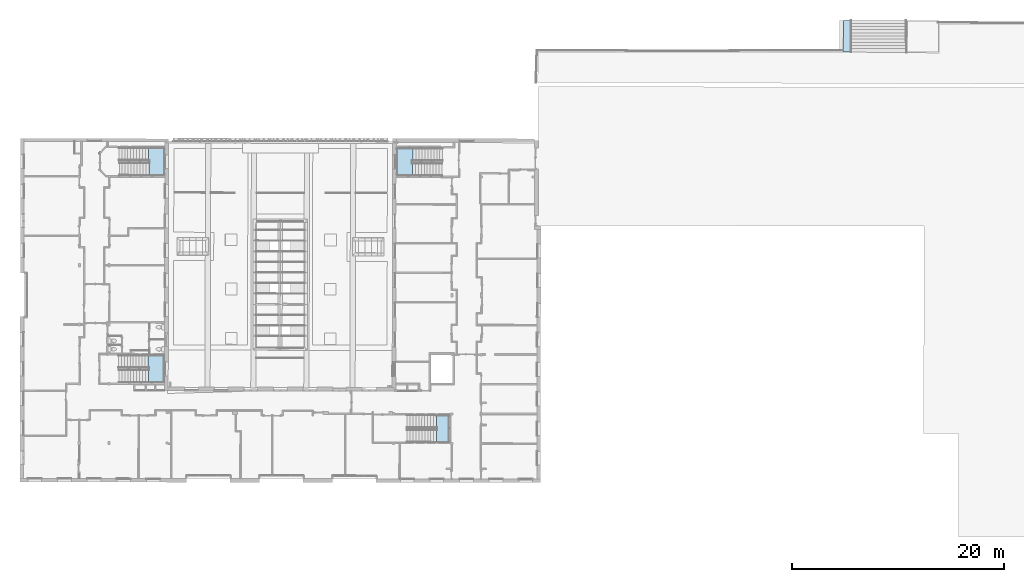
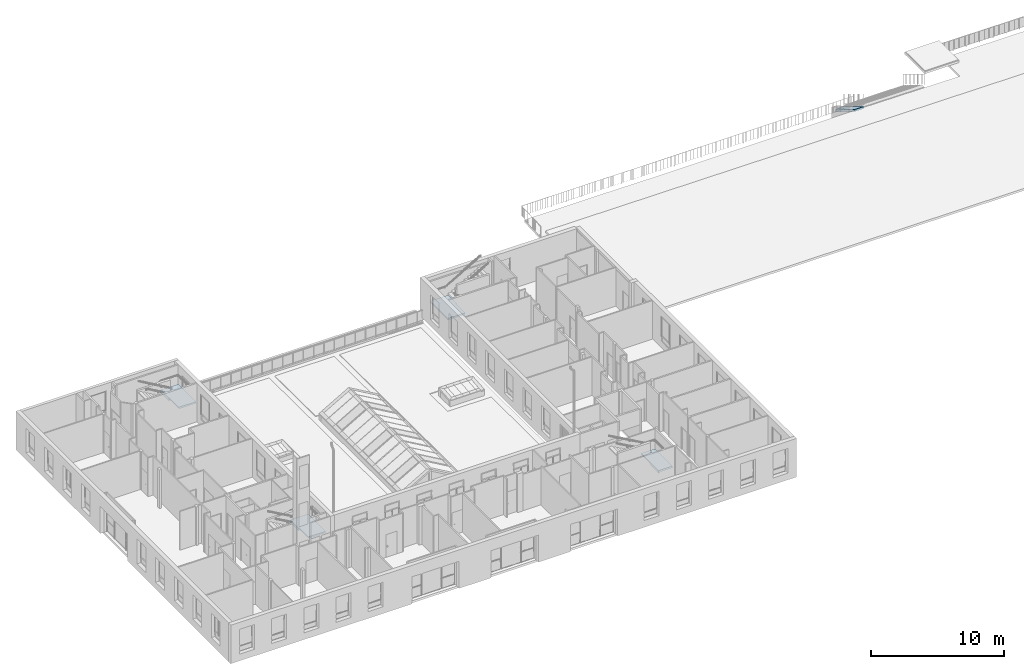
# One storey, part 90 of 101: 5 slabs, 4 elements without a shape of their own.
"""IFC2X3 building model written with IfcOpenShell, lengths in metres."""

from ifc_helpers import new_model, entity, si_unit, converted_unit, derived_unit, direction, frame, origin, place, context, subcontext, project, spatial, faceted_brep, material, layer, layer_set, type_object, element, aggregate, save


model = new_model("IFC2X3")

# Units and contexts
model_context = context("Model", 3, precision=1e-05, world=origin(), true_north=direction((6.123233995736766e-17, 1.0)))
body_context = subcontext(model_context, "Body", "Model", "MODEL_VIEW")
ifc_project = project(units=[si_unit("LENGTHUNIT", "METRE"), si_unit("AREAUNIT", "SQUARE_METRE"), converted_unit("PLANEANGLEUNIT", "DEGREE", entity("IfcPlaneAngleMeasure", 0.017453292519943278), si_unit("PLANEANGLEUNIT", "RADIAN"), dimensions=[0, 0, 0, 0, 0, 0, 0]), derived_unit("THERMALTRANSMITTANCEUNIT", [(si_unit("MASSUNIT", "GRAM", prefix="KILO"), 1), (si_unit("THERMODYNAMICTEMPERATUREUNIT", "KELVIN"), -1), (si_unit("TIMEUNIT", "SECOND"), -3)])], contexts=[model_context])

# Site, building, storey
site_placement = place(None, frame((1253.6752467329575, 2072.143113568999, 91.49999999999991), z_axis=(0.0, 0.0, 1.0), x_axis=(0.7237211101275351, 0.6900925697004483, 0.0)))
site = spatial("IfcSite", under=ifc_project, at=site_placement, Name="Surface", CompositionType="ELEMENT")
building_placement = place(site_placement, origin())
building = spatial("IfcBuilding", under=site, at=building_placement, CompositionType="ELEMENT")
storey_placement = place(building_placement, origin())
storey = spatial("IfcBuildingStorey", under=building, at=storey_placement, Name="0- Rdc", CompositionType="ELEMENT", Elevation=-5.764692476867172e-13)

# Slab
ifc_material_1 = material(Name="OMD_Béton blanc")
ifc_layer = layer(ifc_material_1, 0.2)
ifc_layer_set = layer_set([ifc_layer], Name="Sol:Dalle 20")
slab_type_1 = type_object("IfcSlabType", Name="Sol:Dalle 20", PredefinedType="FLOOR", material=ifc_layer_set)
slab_1_placement = place(storey_placement, origin())
element("IfcSlab", 1, at=slab_1_placement, inside=storey, type_object=slab_type_1, material=ifc_material_1, Name="Sol:Dalle 20", ObjectType="Sol:Dalle 20", PredefinedType="FLOOR", context=body_context, shape_type="Brep", body=[
    faceted_brep([(230.6946814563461, -18.33847077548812, -2.6700000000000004), (229.75157272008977, -19.321413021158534, -1.851495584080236), (228.60913765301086, -20.512100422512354, -0.86), (228.60913765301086, -20.512100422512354, -1.06), (229.75157272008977, -19.321413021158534, -2.0514955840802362), (230.6946814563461, -18.33847077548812, -2.87), (228.44715579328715, -20.35503575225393, -0.86), (228.2851739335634, -20.197971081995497, -0.86), (228.0879354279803, -20.006720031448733, -0.86), (228.0879354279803, -20.006720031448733, -1.06), (228.2851739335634, -20.197971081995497, -1.0600000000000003), (228.44715579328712, -20.355035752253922, -1.0599999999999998), (230.17072451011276, -17.86321347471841, -2.6700000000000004), (230.17072451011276, -17.86321347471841, -2.87), (229.02979847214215, -19.037399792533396, -1.8785044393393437), (229.02979847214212, -19.037399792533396, -1.6785044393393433), (230.43270298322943, -18.100842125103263, -2.87), (230.33356249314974, -18.01091633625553, -2.87), (230.33356249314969, -18.010916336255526, -2.6700000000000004), (230.43270298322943, -18.100842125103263, -2.6700000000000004), (228.99340797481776, -19.352304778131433, -1.5248417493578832), (229.35754089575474, -19.24929804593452, -1.7209247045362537), (228.99340797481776, -19.352304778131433, -1.7248417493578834), (229.35754089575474, -19.24929804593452, -1.9209247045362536)], [[[0, 1, 2, 3, 4, 5]], [[2, 6, 7, 8, 9, 10, 11, 3]], [[12, 13, 14, 9, 8, 15]], [[0, 5, 16, 17, 13, 12, 18, 19]], [[20, 8, 7]], [[18, 15, 20]], [[6, 21, 7]], [[7, 21, 20]], [[21, 1, 19]], [[1, 21, 6]], [[1, 0, 19]], [[6, 2, 1]], [[19, 18, 21]], [[15, 18, 12]], [[18, 20, 21]], [[8, 20, 15]], [[10, 9, 22]], [[22, 14, 17]], [[10, 23, 11]], [[22, 23, 10]], [[16, 4, 23]], [[11, 23, 4]], [[16, 5, 4]], [[4, 3, 11]], [[23, 17, 16]], [[13, 17, 14]], [[23, 22, 17]], [[14, 22, 9]]]),
])

# Stair, slab
type_product = type_object("IfcTypeProduct", Name="Escalier coulé sur place:Monobloc")
stair_1_placement = place(storey_placement, origin())
stair_1 = element("IfcStair", 2, at=stair_1_placement, inside=storey, type_object=type_product, Name="Escalier coulé sur place:Escalier", ObjectType="Escalier coulé sur place:Monobloc", ShapeType="HALF_TURN_STAIR")
ifc_material_2 = material(Name="<Unnamed>")
slab_type_2 = type_object("IfcSlabType", Name="Palier monobloc:150 mm d'épaisseur", PredefinedType="LANDING")
slab_2_placement = place(stair_1_placement, frame((189.45705929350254, -0.3999894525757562, 0.0)))
slab_2 = element("IfcSlab", 3, at=slab_2_placement, type_object=slab_type_2, material=ifc_material_2, Name="Escalier coulé sur place:Escalier:3228538 Landing 1", ObjectType="Palier monobloc:150 mm d'épaisseur", PredefinedType="LANDING", context=body_context, shape_type="Brep", body=[
    faceted_brep([(1.0806909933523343, 0.0, 1.7749999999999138), (1.944420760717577, 0.9035877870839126, 1.7749999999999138), (1.94803511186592, 0.9001328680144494, 1.7749999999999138), (2.065502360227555, 1.023020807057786, 1.7749999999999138), (2.101645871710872, 0.9884716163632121, 1.7749999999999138), (2.1052602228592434, 0.9850166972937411, 1.7749999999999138), (2.968989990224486, 1.888604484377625, 1.7749999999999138), (2.965375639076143, 1.8920594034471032, 1.7749999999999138), (2.8966576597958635, 1.95774617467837, 1.7749999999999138), (1.8449267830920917, 2.9630843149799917, 1.7749999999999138), (0.0, 1.0330208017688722, 1.7749999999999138), (0.9506196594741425, 0.12433377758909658, 1.7749999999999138), (1.94803511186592, 0.9001328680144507, 1.6249999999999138), (2.065502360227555, 1.023020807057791, 1.6249999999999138), (2.065502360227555, 1.023020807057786, 1.6509695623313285), (2.101645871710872, 0.9884716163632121, 1.679784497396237), (2.1052602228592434, 0.9850166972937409, 1.6826659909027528), (2.968989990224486, 1.888604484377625, 1.6826659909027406), (2.9653756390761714, 1.892059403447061, 1.6797844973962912), (2.8966576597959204, 1.9577461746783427, 1.6249999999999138), (1.8449267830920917, 2.9630843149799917, 1.6249999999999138), (0.0, 1.0330208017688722, 1.6249999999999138), (2.032927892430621, 1.0541583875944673, 1.6249999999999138), (1.944420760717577, 0.9035877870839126, 1.6249999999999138), (1.8143494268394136, 1.0279215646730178, 1.6249999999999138), (0.9506196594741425, 0.12433377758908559, 1.6249999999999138), (1.944420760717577, 0.9035877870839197, 1.5213023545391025), (1.0806909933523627, 0.0, 1.5213023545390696), (1.944420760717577, 0.9035877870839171, 1.6136363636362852), (1.0806909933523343, 0.0, 1.6136363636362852)], [[[0, 1, 2, 3, 4, 5, 6, 7, 8, 9, 10, 11]], [[3, 2, 12, 13, 14]], [[4, 3, 14, 15]], [[6, 5, 16, 17]], [[7, 18, 19, 20, 9, 8]], [[10, 9, 20, 21]], [[22, 13, 12, 23, 24, 25, 21, 20, 19]], [[25, 24, 26, 27]], [[24, 23, 28, 26]], [[22, 19, 18, 17, 16, 15, 14]], [[1, 0, 29, 27, 26, 28, 23]], [[2, 1, 23, 12]], [[5, 4, 15, 16]], [[7, 6, 17, 18]], [[27, 29, 0, 11, 10, 21, 25]], [[13, 22, 14]]]),
])
aggregate(stair_1, [slab_2])

stair_2_placement = place(storey_placement, origin())
stair_2 = element("IfcStair", 4, at=stair_2_placement, inside=storey, type_object=type_product, Name="Escalier coulé sur place:Escalier", ObjectType="Escalier coulé sur place:Monobloc", ShapeType="HALF_TURN_STAIR")
slab_3_placement = place(stair_2_placement, frame((174.80201710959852, -21.04512734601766, 0.0)))
slab_3 = element("IfcSlab", 5, at=slab_3_placement, type_object=slab_type_2, material=ifc_material_2, Name="Escalier coulé sur place:Escalier:3231157 Landing 1", ObjectType="Palier monobloc:150 mm d'épaisseur", PredefinedType="LANDING", context=body_context, shape_type="Brep", body=[
    faceted_brep([(0.860115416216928, 1.732768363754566, 1.7249999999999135), (0.8637297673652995, 1.7293134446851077, 1.7249999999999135), (0.0, 0.825725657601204, 1.7249999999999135), (0.12714669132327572, 0.7041875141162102, 1.7249999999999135), (0.863829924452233, 0.0, 1.7249999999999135), (2.69148211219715, 1.9119917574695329, 1.7249999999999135), (1.8956804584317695, 2.6726899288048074, 1.7249999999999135), (1.824037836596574, 2.741172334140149, 1.7249999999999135), (1.8204234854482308, 2.7446272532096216, 1.7249999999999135), (0.9566937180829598, 1.8410394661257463, 1.7249999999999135), (0.9603080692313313, 1.8375845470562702, 1.7249999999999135), (0.863829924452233, 0.0, 1.5749999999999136), (2.69148211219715, 1.9119917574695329, 1.5749999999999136), (1.8956804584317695, 2.6726899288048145, 1.5749999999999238), (1.824037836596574, 2.741172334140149, 1.630507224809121), (1.8204234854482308, 2.7446272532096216, 1.6333075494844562), (0.9566937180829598, 1.8410394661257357, 1.6333075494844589), (0.9603080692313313, 1.8375845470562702, 1.630507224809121), (0.9603080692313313, 1.8375845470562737, 1.5749999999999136), (0.860115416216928, 1.732768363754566, 1.5749999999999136), (0.8637297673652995, 1.7293134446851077, 1.5749999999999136), (0.8637297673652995, 1.729313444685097, 1.5681818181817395), (0.8637297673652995, 1.7293134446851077, 1.4764893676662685), (0.0, 0.825725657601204, 1.4764893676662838), (0.0, 0.825725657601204, 1.5681818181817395), (0.12714669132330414, 0.7041875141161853, 1.5749999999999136), (1.0319506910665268, 1.769102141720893, 1.5749999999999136), (0.9908764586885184, 1.6077753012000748, 1.5749999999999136)], [[[0, 1, 2, 3, 4, 5, 6, 7, 8, 9, 10]], [[5, 4, 11, 12]], [[5, 12, 13, 14, 7, 6]], [[8, 7, 14, 15]], [[10, 9, 16, 17]], [[0, 10, 17, 18, 19]], [[1, 0, 19, 20]], [[2, 1, 20, 21, 22, 23, 24]], [[2, 24, 23, 25, 11, 4, 3]], [[9, 8, 15, 16]], [[18, 26, 13, 12, 11, 25, 27, 20, 19]], [[26, 18, 17]], [[27, 25, 23, 22]], [[20, 27, 22, 21]], [[13, 26, 17, 16, 15, 14]]]),
])
aggregate(stair_2, [slab_3])

stair_3_placement = place(storey_placement, origin())
stair_3 = element("IfcStair", 6, at=stair_3_placement, inside=storey, type_object=type_product, Name="Escalier coulé sur place:Escalier", ObjectType="Escalier coulé sur place:Monobloc", ShapeType="HALF_TURN_STAIR")
slab_4_placement = place(stair_3_placement, frame((158.99727048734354, 1.6290692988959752, 0.0)))
slab_4 = element("IfcSlab", 7, at=slab_4_placement, type_object=slab_type_2, material=ifc_material_2, Name="Escalier coulé sur place:Escalier:3234227 Landing 1", ObjectType="Palier monobloc:150 mm d'épaisseur", PredefinedType="LANDING", context=body_context, shape_type="Brep", body=[
    faceted_brep([(1.7932174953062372, 2.981816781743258, 1.7249999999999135), (0.9294877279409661, 2.0782289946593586, 1.7249999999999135), (0.9658322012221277, 2.04348770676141, 1.7249999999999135), (0.8673441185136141, 1.940454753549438, 1.7249999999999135), (0.8637297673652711, 1.9439096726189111, 1.7249999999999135), (0.0, 1.0403218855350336, 1.7249999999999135), (0.0036143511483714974, 1.0368669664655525, 1.7249999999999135), (0.07525697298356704, 0.9683845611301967, 1.7249999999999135), (1.0883289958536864, 0.0, 1.7249999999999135), (2.914276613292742, 1.9102085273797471, 1.7249999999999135), (1.9203641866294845, 2.8602786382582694, 1.7249999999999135), (1.7932174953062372, 2.981816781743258, 1.5681818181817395), (1.7932174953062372, 2.9818167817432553, 1.4764893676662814), (0.9294877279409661, 2.0782289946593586, 1.4764893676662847), (0.9294877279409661, 2.0782289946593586, 1.5681818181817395), (1.0566344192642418, 1.9566908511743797, 1.5749999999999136), (0.9658322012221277, 2.04348770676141, 1.5749999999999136), (0.8673441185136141, 1.9404547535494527, 1.5749999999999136), (0.8673441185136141, 1.940454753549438, 1.6305072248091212), (0.8637297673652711, 1.9439096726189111, 1.6333075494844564), (0.0, 1.0403218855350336, 1.6333075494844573), (0.0036143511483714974, 1.0368669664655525, 1.630507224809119), (0.07525697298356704, 0.968384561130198, 1.5749999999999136), (1.0883289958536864, 0.0, 1.5749999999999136), (2.914276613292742, 1.9102085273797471, 1.5749999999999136), (1.9203641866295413, 2.86027863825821, 1.5749999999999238), (0.9389867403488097, 1.8719723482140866, 1.5749999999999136)], [[[0, 1, 2, 3, 4, 5, 6, 7, 8, 9, 10]], [[1, 0, 11, 12, 13, 14]], [[2, 1, 14, 13, 15, 16]], [[3, 2, 16, 17, 18]], [[4, 3, 18, 19]], [[5, 4, 19, 20]], [[6, 5, 20, 21]], [[6, 21, 22, 23, 8, 7]], [[9, 8, 23, 24]], [[12, 11, 0, 10, 9, 24, 25]], [[26, 17, 16, 15, 25, 24, 23, 22]], [[17, 26, 18]], [[25, 15, 13, 12]], [[26, 22, 21, 20, 19, 18]]]),
])
aggregate(stair_3, [slab_4])

stair_4_placement = place(storey_placement, origin())
stair_4 = element("IfcStair", 8, at=stair_4_placement, inside=storey, type_object=type_product, Name="Escalier coulé sur place:Escalier", ObjectType="Escalier coulé sur place:Monobloc", ShapeType="HALF_TURN_STAIR")
slab_5_placement = place(stair_4_placement, frame((172.53105286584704, 15.772486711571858, 0.0)))
slab_5 = element("IfcSlab", 9, at=slab_5_placement, type_object=slab_type_2, material=ifc_material_2, Name="Escalier coulé sur place:Escalier:3239510 Landing 1", ObjectType="Palier monobloc:150 mm d'épaisseur", PredefinedType="LANDING", context=body_context, shape_type="Brep", body=[
    faceted_brep([(1.8160119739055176, 2.997633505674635, 1.7749999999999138), (0.952282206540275, 2.0940457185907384, 1.7749999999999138), (0.9848113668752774, 2.0629514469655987, 1.7749999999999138), (0.867344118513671, 1.9400635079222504, 1.7749999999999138), (0.8637297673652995, 1.943518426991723, 1.7749999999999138), (0.0, 1.0399306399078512, 1.7749999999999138), (0.003614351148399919, 1.0364757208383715, 1.7749999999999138), (0.07233233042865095, 0.9707889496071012, 1.7749999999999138), (1.0879196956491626, 0.0, 1.7749999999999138), (2.9328464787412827, 1.9300635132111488, 1.7749999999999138), (1.9460833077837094, 2.8732997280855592, 1.7749999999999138), (1.8160119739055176, 2.9976335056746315, 1.6136363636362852), (1.8160119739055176, 2.997633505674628, 1.521302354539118), (0.952282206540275, 2.0940457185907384, 1.5213023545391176), (0.952282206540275, 2.0940457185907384, 1.6136363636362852), (1.0823535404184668, 1.9697119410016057, 1.6249999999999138), (0.9848113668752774, 2.0629514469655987, 1.6249999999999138), (0.867344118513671, 1.9400635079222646, 1.6249999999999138), (0.867344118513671, 1.9400635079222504, 1.679784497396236), (0.8637297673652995, 1.943518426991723, 1.6826659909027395), (0.0, 1.0399306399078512, 1.6826659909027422), (0.003614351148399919, 1.0364757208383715, 1.679784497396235), (0.07233233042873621, 0.9707889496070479, 1.6249999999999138), (1.0879196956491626, 0.0, 1.6249999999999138), (2.9328464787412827, 1.9300635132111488, 1.6249999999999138), (1.9460833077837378, 2.8732997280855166, 1.6249999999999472), (0.936062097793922, 1.8743767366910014, 1.6249999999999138)], [[[0, 1, 2, 3, 4, 5, 6, 7, 8, 9, 10]], [[1, 0, 11, 12, 13, 14]], [[2, 1, 14, 13, 15, 16]], [[3, 2, 16, 17, 18]], [[4, 3, 18, 19]], [[5, 4, 19, 20]], [[6, 5, 20, 21]], [[6, 21, 22, 23, 8, 7]], [[9, 8, 23, 24]], [[12, 11, 0, 10, 9, 24, 25]], [[26, 17, 16, 15, 25, 24, 23, 22]], [[17, 26, 18]], [[25, 15, 13, 12]], [[26, 22, 21, 20, 19, 18]]]),
])
aggregate(stair_4, [slab_5])

save(model, "model.ifc")
